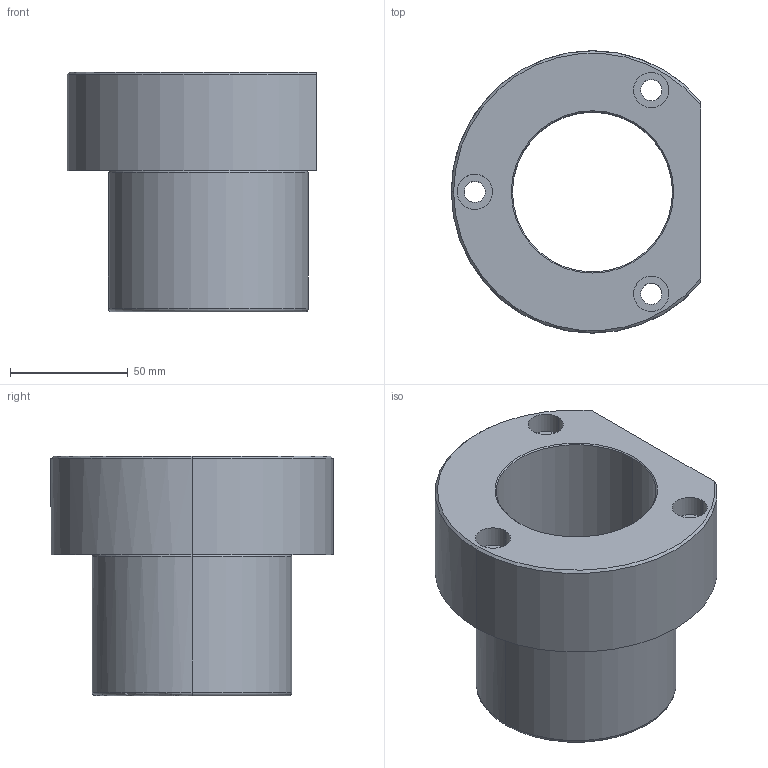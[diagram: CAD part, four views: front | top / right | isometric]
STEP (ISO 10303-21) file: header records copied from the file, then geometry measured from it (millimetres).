
FILE_DESCRIPTION(('CATIA V5 STEP Exchange'),'2;1');
FILE_NAME('C:\Users\Utente\Desktop\IO LAVORO\3D X SITO CF\X SITO\737\737-60.stp','2021-01-17T16:59:14+00:00',('none'),('none'),'CATIA Version 5 Release 20 GA (IN-10)','CATIA V5 STEP AP203','none');
FILE_SCHEMA(('CONFIG_CONTROL_DESIGN'));
Length unit declared in the file: millimetre
Products named in the file (1): 737-60
Bounding box: 106 x 120 x 102 mm (x, y, z)
Volume: 402421.4 mm3; surface area: 70886.7 mm2
Topology: 1 solids, 1 shells, 37 faces, 82 edges, 51 vertices
Faces by surface type: cylinder 18, plane 7, cone 6, torus 6
Entity records: 1250 total; most frequent: CARTESIAN_POINT 399, ORIENTED_EDGE 164, DIRECTION 144, AXIS2_PLACEMENT_3D 82, EDGE_CURVE 82, VERTEX_POINT 51, EDGE_LOOP 49, CIRCLE 44
